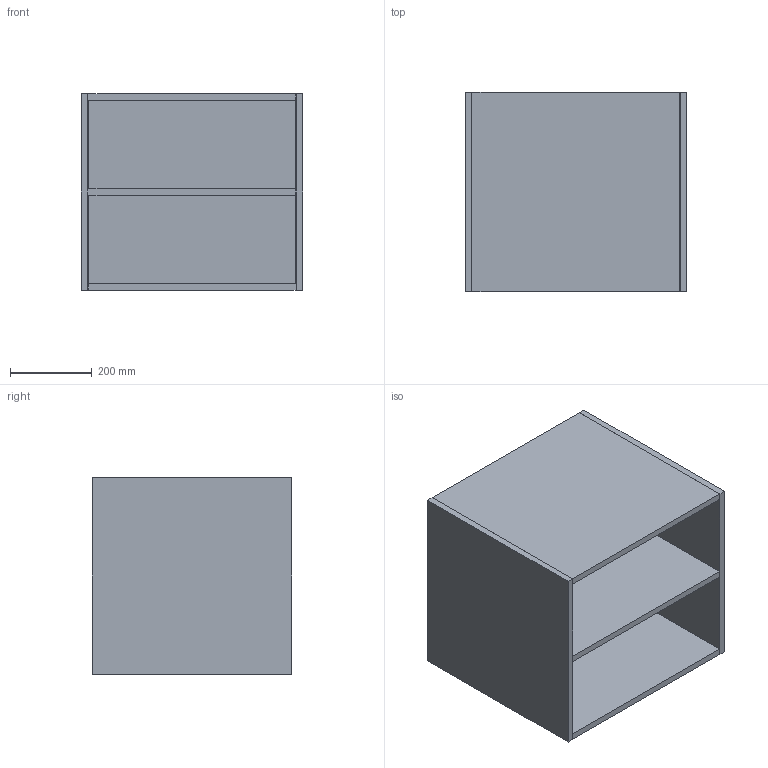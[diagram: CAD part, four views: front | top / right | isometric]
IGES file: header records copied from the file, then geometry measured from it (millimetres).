
Start section: Data from Parasolid IGES Translator 19.0.9, Copyright(c) 2006 Siemens PL M Software. All Rights Reserved.
Global section: file name: noorth-SI-H 48 D 51 W 54_8592.igs; native system: By Siemens PLM Incorporated; preprocessor: XPlus GENERIC/IGES 19.0.9; author: Noname; organization: Noname; date: 20200601.111709; units: metre
Bounding box: 540.01 x 486.06 x 480 mm (x, y, z)
Volume: 19968215.2 mm3; surface area: 3032420.9 mm2
Topology: 6 solids, 6 shells, 36 faces, 72 edges, 48 vertices
Faces by surface type: plane 36
